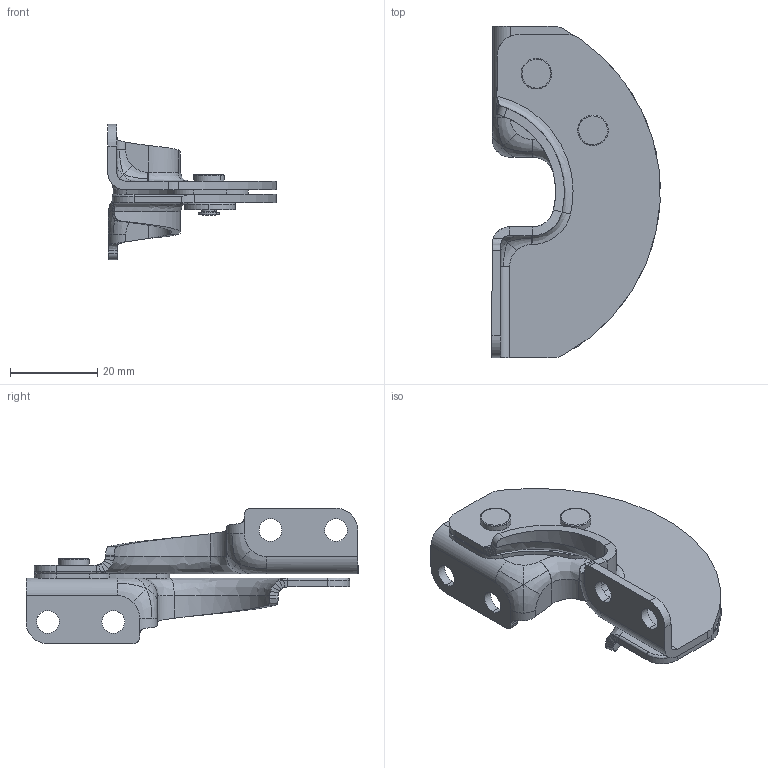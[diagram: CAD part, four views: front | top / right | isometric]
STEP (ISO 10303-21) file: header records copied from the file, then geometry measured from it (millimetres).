
FILE_DESCRIPTION (( 'STEP AP214' ), '1' );
FILE_NAME ('119 90僅.STEP', '2023-07-25T03:01:11', ( '' ), ( '' ), 'SwSTEP 2.0', 'SolidWorks 2019', '' );
FILE_SCHEMA (( 'AUTOMOTIVE_DESIGN' ));
Length unit declared in the file: millimetre
Products named in the file (6): SW3dPS-R6-21-11_R6_Crescent_Cam_Leaf_Flat-90_clf_1; SW3dPS-R6-21-11_Imported_1; SW3dPS-R6-21-11_Imported1_1; SW3dPS-R6-21-11_R6_Crescent_Washer_clf_1; SW3dPS-R6-21-11_R6_Crescent_Roller_Leaf_Flat_90_clf_1; 119   90僅
Assembly tree (7 placements, depth 2):
  119   90僅
    SW3dPS-R6-21-11_R6_Crescent_Roller_Leaf_Flat_90_clf_1
    SW3dPS-R6-21-11_R6_Crescent_Washer_clf_1
    SW3dPS-R6-21-11_Imported1_1  x2
    SW3dPS-R6-21-11_Imported_1  x2
    SW3dPS-R6-21-11_R6_Crescent_Cam_Leaf_Flat-90_clf_1
Bounding box: 38.57 x 76.04 x 31 mm (x, y, z)
Volume: 10351.4 mm3; surface area: 12825.8 mm2
Topology: 7 solids, 7 shells, 241 faces, 578 edges, 359 vertices
Faces by surface type: cylinder 98, bspline 90, plane 48, cone 5
Entity records: 9036 total; most frequent: CARTESIAN_POINT 4479, ORIENTED_EDGE 992, DIRECTION 765, EDGE_CURVE 496, VERTEX_POINT 309, AXIS2_PLACEMENT_3D 299, EDGE_LOOP 225, FACE_OUTER_BOUND 201
